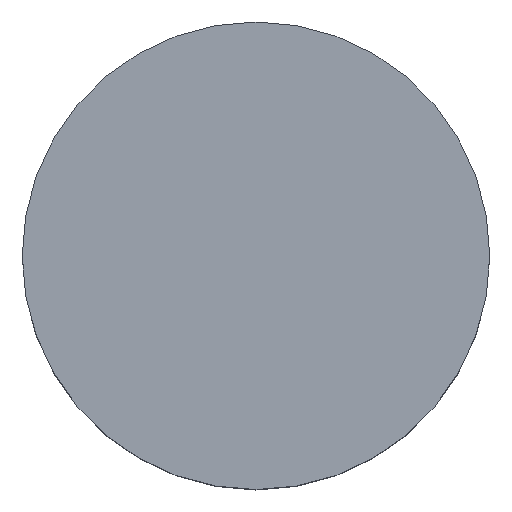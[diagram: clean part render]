
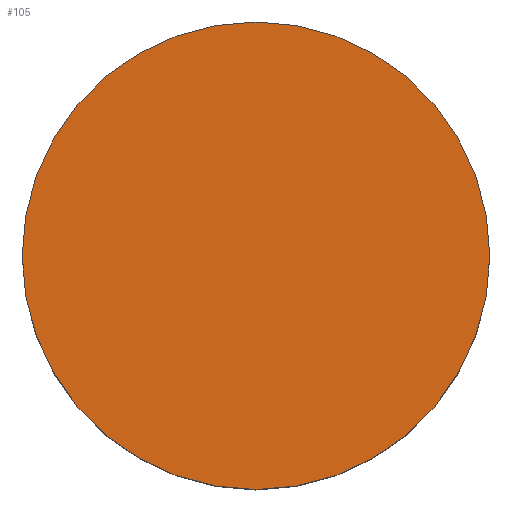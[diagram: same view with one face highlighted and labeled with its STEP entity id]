
A CAD part, top view. The second image highlights one B-rep face of the part: STEP entity #105.
In plain terms, the highlighted planar face has unit normal (0, 0, 1).
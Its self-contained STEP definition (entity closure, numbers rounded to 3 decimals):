
#21 = EDGE_CURVE('',#22,#22,#24,.T.);
#22 = VERTEX_POINT('',#23);
#23 = CARTESIAN_POINT('',(-460.,120.,-65.));
#24 = SURFACE_CURVE('',#25,(#30,#42),.PCURVE_S1.);
#25 = CIRCLE('',#26,35.);
#26 = AXIS2_PLACEMENT_3D('',#27,#28,#29);
#27 = CARTESIAN_POINT('',(-495.,120.,-65.));
#28 = DIRECTION('',(0.,0.,1.));
#29 = DIRECTION('',(1.,0.,-0.));
#30 = PCURVE('',#31,#36);
#31 = CYLINDRICAL_SURFACE('',#32,35.);
#32 = AXIS2_PLACEMENT_3D('',#33,#34,#35);
#33 = CARTESIAN_POINT('',(-495.,120.,-100.));
#34 = DIRECTION('',(0.,0.,1.));
#35 = DIRECTION('',(1.,0.,-0.));
#36 = DEFINITIONAL_REPRESENTATION('',(#37),#41);
#37 = LINE('',#38,#39);
#38 = CARTESIAN_POINT('',(0.,35.));
#39 = VECTOR('',#40,1.);
#40 = DIRECTION('',(1.,0.));
#41 = ( GEOMETRIC_REPRESENTATION_CONTEXT(2) 
PARAMETRIC_REPRESENTATION_CONTEXT() REPRESENTATION_CONTEXT('2D SPACE',''
  ) );
#42 = PCURVE('',#43,#48);
#43 = PLANE('',#44);
#44 = AXIS2_PLACEMENT_3D('',#45,#46,#47);
#45 = CARTESIAN_POINT('',(-495.,120.,-65.));
#46 = DIRECTION('',(0.,0.,1.));
#47 = DIRECTION('',(1.,0.,-0.));
#48 = DEFINITIONAL_REPRESENTATION('',(#49),#53);
#49 = CIRCLE('',#50,35.);
#50 = AXIS2_PLACEMENT_2D('',#51,#52);
#51 = CARTESIAN_POINT('',(0.,0.));
#52 = DIRECTION('',(1.,0.));
#53 = ( GEOMETRIC_REPRESENTATION_CONTEXT(2) 
PARAMETRIC_REPRESENTATION_CONTEXT() REPRESENTATION_CONTEXT('2D SPACE',''
  ) );
#105 = ADVANCED_FACE('',(#106),#43,.T.);
#106 = FACE_BOUND('',#107,.T.);
#107 = EDGE_LOOP('',(#108));
#108 = ORIENTED_EDGE('',*,*,#21,.T.);
